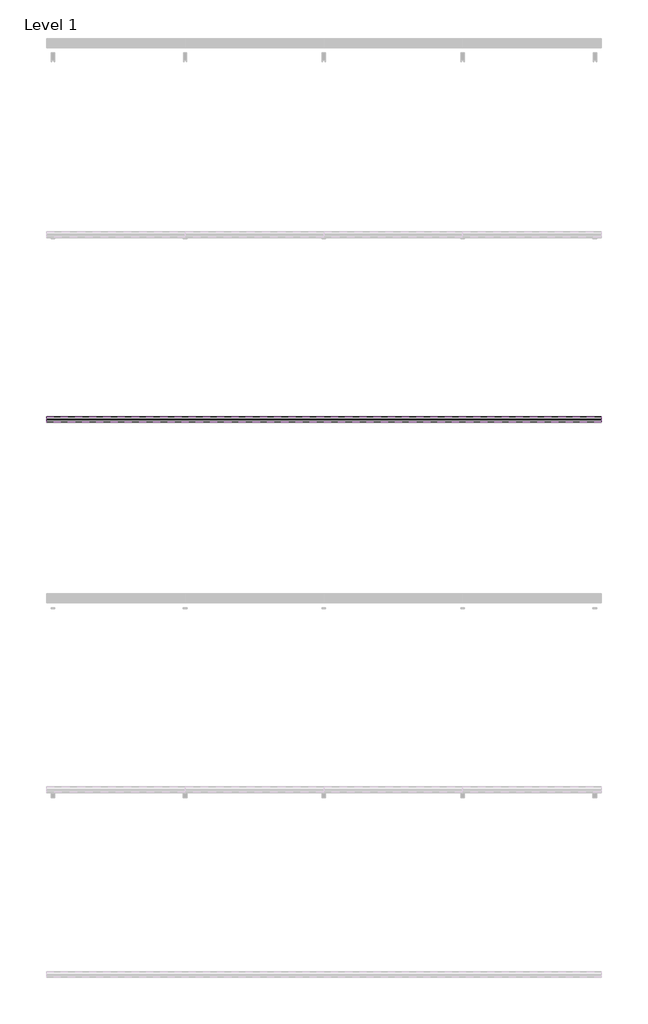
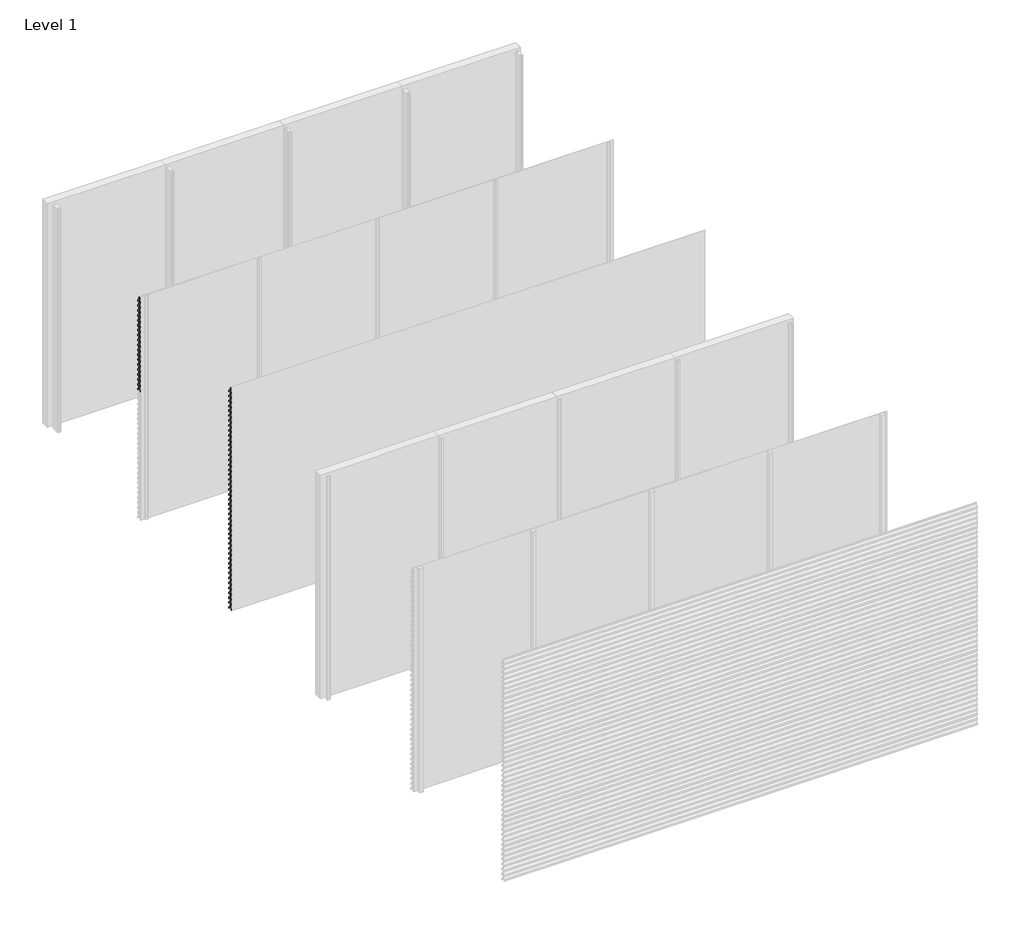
# One storey, part 19 of 35: 70 proxies.
"""IFC4 building model written with IfcOpenShell, lengths in millimetres."""

from ifc_helpers import new_model, si_unit, frame, origin, place, context, project, spatial, polyline, outline, extrude, element, save

model = new_model("IFC4")

# Units and contexts
model_context = context("Model", 3, world=origin())
ifc_project = project(units=[si_unit("LENGTHUNIT", "METRE", prefix="MILLI")], contexts=[model_context])

# Site, building, storey
site = spatial("IfcSite", under=ifc_project)
building = spatial("IfcBuilding", under=site)
storey = spatial("IfcBuildingStorey", under=building, Name="Level 1", Elevation=0.0)

# Proxies
placement = place(None, origin())
element("IfcBuildingElementProxy", 1, Name="Wall Sweeps", at=placement, inside=storey, context=model_context, shape_type="SweptSolid", body=[
    extrude(outline(polyline([(-23936.0, 2916.0), (-23936.0, 2896.0), (-23937.25, 2896.0), (-23937.25, 2915.4342979), (-23968.1138939, 2948.531772), (-23996.7, 2928.4392868), (-23996.7, 2909.6629874), (-23998.0, 2908.8506572), (-23998.0, 2929.1145472), (-23968.537525, 2949.823011), (-23968.537525, 2970.0), (-23967.1772624, 2970.0), (-23967.1772624, 2949.4335207), (-23936.0, 2916.0)])), frame((0.0, 0.0, 0.0), z_axis=(1.0, 0.0, 0.0), x_axis=(0.0, 1.0, 0.0)), (0.0, 0.0, 1.0), 1500.0),
])
element("IfcBuildingElementProxy", 2, Name="Wall Sweeps", at=placement, inside=storey, context=model_context, shape_type="SweptSolid", body=[
    extrude(outline(polyline([(-23936.0, 2850.0), (-23936.0, 2830.0), (-23937.25, 2830.0), (-23937.25, 2849.4342979), (-23968.1138939, 2882.531772), (-23996.7, 2862.4392868), (-23996.7, 2843.6629874), (-23998.0, 2842.8506572), (-23998.0, 2863.1145472), (-23968.537525, 2883.823011), (-23968.537525, 2904.0), (-23967.1772624, 2904.0), (-23967.1772624, 2883.4335207), (-23936.0, 2850.0)])), frame((0.0, 0.0, 0.0), z_axis=(1.0, 0.0, 0.0), x_axis=(0.0, 1.0, 0.0)), (0.0, 0.0, 1.0), 1500.0),
])
element("IfcBuildingElementProxy", 3, Name="Wall Sweeps", at=placement, inside=storey, context=model_context, shape_type="SweptSolid", body=[
    extrude(outline(polyline([(-23936.0, 2784.0), (-23936.0, 2764.0), (-23937.25, 2764.0), (-23937.25, 2783.4342979), (-23968.1138939, 2816.531772), (-23996.7, 2796.4392868), (-23996.7, 2777.6629874), (-23998.0, 2776.8506572), (-23998.0, 2797.1145472), (-23968.537525, 2817.823011), (-23968.537525, 2838.0), (-23967.1772624, 2838.0), (-23967.1772624, 2817.4335207), (-23936.0, 2784.0)])), frame((0.0, 0.0, 0.0), z_axis=(1.0, 0.0, 0.0), x_axis=(0.0, 1.0, 0.0)), (0.0, 0.0, 1.0), 1500.0),
])
element("IfcBuildingElementProxy", 4, Name="Wall Sweeps", at=placement, inside=storey, context=model_context, shape_type="SweptSolid", body=[
    extrude(outline(polyline([(-23936.0, 2718.0), (-23936.0, 2698.0), (-23937.25, 2698.0), (-23937.25, 2717.4342979), (-23968.1138939, 2750.531772), (-23996.7, 2730.4392868), (-23996.7, 2711.6629874), (-23998.0, 2710.8506572), (-23998.0, 2731.1145472), (-23968.537525, 2751.823011), (-23968.537525, 2772.0), (-23967.1772624, 2772.0), (-23967.1772624, 2751.4335207), (-23936.0, 2718.0)])), frame((0.0, 0.0, 0.0), z_axis=(1.0, 0.0, 0.0), x_axis=(0.0, 1.0, 0.0)), (0.0, 0.0, 1.0), 1500.0),
])
element("IfcBuildingElementProxy", 5, Name="Wall Sweeps", at=placement, inside=storey, context=model_context, shape_type="SweptSolid", body=[
    extrude(outline(polyline([(-23936.0, 2652.0), (-23936.0, 2632.0), (-23937.25, 2632.0), (-23937.25, 2651.4342979), (-23968.1138939, 2684.531772), (-23996.7, 2664.4392868), (-23996.7, 2645.6629874), (-23998.0, 2644.8506572), (-23998.0, 2665.1145472), (-23968.537525, 2685.823011), (-23968.537525, 2706.0), (-23967.1772624, 2706.0), (-23967.1772624, 2685.4335207), (-23936.0, 2652.0)])), frame((0.0, 0.0, 0.0), z_axis=(1.0, 0.0, 0.0), x_axis=(0.0, 1.0, 0.0)), (0.0, 0.0, 1.0), 1500.0),
])
element("IfcBuildingElementProxy", 6, Name="Wall Sweeps", at=placement, inside=storey, context=model_context, shape_type="SweptSolid", body=[
    extrude(outline(polyline([(-23936.0, 2586.0), (-23936.0, 2566.0), (-23937.25, 2566.0), (-23937.25, 2585.4342979), (-23968.1138939, 2618.531772), (-23996.7, 2598.4392868), (-23996.7, 2579.6629874), (-23998.0, 2578.8506572), (-23998.0, 2599.1145472), (-23968.537525, 2619.823011), (-23968.537525, 2640.0), (-23967.1772624, 2640.0), (-23967.1772624, 2619.4335207), (-23936.0, 2586.0)])), frame((0.0, 0.0, 0.0), z_axis=(1.0, 0.0, 0.0), x_axis=(0.0, 1.0, 0.0)), (0.0, 0.0, 1.0), 1500.0),
])
element("IfcBuildingElementProxy", 7, Name="Wall Sweeps", at=placement, inside=storey, context=model_context, shape_type="SweptSolid", body=[
    extrude(outline(polyline([(-23936.0, 2520.0), (-23936.0, 2500.0), (-23937.25, 2500.0), (-23937.25, 2519.4342979), (-23968.1138939, 2552.531772), (-23996.7, 2532.4392868), (-23996.7, 2513.6629874), (-23998.0, 2512.8506572), (-23998.0, 2533.1145472), (-23968.537525, 2553.823011), (-23968.537525, 2574.0), (-23967.1772624, 2574.0), (-23967.1772624, 2553.4335207), (-23936.0, 2520.0)])), frame((0.0, 0.0, 0.0), z_axis=(1.0, 0.0, 0.0), x_axis=(0.0, 1.0, 0.0)), (0.0, 0.0, 1.0), 1500.0),
])
element("IfcBuildingElementProxy", 8, Name="Wall Sweeps", at=placement, inside=storey, context=model_context, shape_type="SweptSolid", body=[
    extrude(outline(polyline([(-23936.0, 2454.0), (-23936.0, 2434.0), (-23937.25, 2434.0), (-23937.25, 2453.4342979), (-23968.1138939, 2486.531772), (-23996.7, 2466.4392868), (-23996.7, 2447.6629874), (-23998.0, 2446.8506572), (-23998.0, 2467.1145472), (-23968.537525, 2487.823011), (-23968.537525, 2508.0), (-23967.1772624, 2508.0), (-23967.1772624, 2487.4335207), (-23936.0, 2454.0)])), frame((0.0, 0.0, 0.0), z_axis=(1.0, 0.0, 0.0), x_axis=(0.0, 1.0, 0.0)), (0.0, 0.0, 1.0), 1500.0),
])
element("IfcBuildingElementProxy", 9, Name="Wall Sweeps", at=placement, inside=storey, context=model_context, shape_type="SweptSolid", body=[
    extrude(outline(polyline([(-23936.0, 2388.0), (-23936.0, 2368.0), (-23937.25, 2368.0), (-23937.25, 2387.4342979), (-23968.1138939, 2420.531772), (-23996.7, 2400.4392868), (-23996.7, 2381.6629874), (-23998.0, 2380.8506572), (-23998.0, 2401.1145472), (-23968.537525, 2421.823011), (-23968.537525, 2442.0), (-23967.1772624, 2442.0), (-23967.1772624, 2421.4335207), (-23936.0, 2388.0)])), frame((0.0, 0.0, 0.0), z_axis=(1.0, 0.0, 0.0), x_axis=(0.0, 1.0, 0.0)), (0.0, 0.0, 1.0), 1500.0),
])
element("IfcBuildingElementProxy", 10, Name="Wall Sweeps", at=placement, inside=storey, context=model_context, shape_type="SweptSolid", body=[
    extrude(outline(polyline([(-23936.0, 2322.0), (-23936.0, 2302.0), (-23937.25, 2302.0), (-23937.25, 2321.4342979), (-23968.1138939, 2354.531772), (-23996.7, 2334.4392868), (-23996.7, 2315.6629874), (-23998.0, 2314.8506572), (-23998.0, 2335.1145472), (-23968.537525, 2355.823011), (-23968.537525, 2376.0), (-23967.1772624, 2376.0), (-23967.1772624, 2355.4335207), (-23936.0, 2322.0)])), frame((0.0, 0.0, 0.0), z_axis=(1.0, 0.0, 0.0), x_axis=(0.0, 1.0, 0.0)), (0.0, 0.0, 1.0), 1500.0),
])
element("IfcBuildingElementProxy", 11, Name="Wall Sweeps", at=placement, inside=storey, context=model_context, shape_type="SweptSolid", body=[
    extrude(outline(polyline([(-23936.0, 2256.0), (-23936.0, 2236.0), (-23937.25, 2236.0), (-23937.25, 2255.4342979), (-23968.1138939, 2288.531772), (-23996.7, 2268.4392868), (-23996.7, 2249.6629874), (-23998.0, 2248.8506572), (-23998.0, 2269.1145472), (-23968.537525, 2289.823011), (-23968.537525, 2310.0), (-23967.1772624, 2310.0), (-23967.1772624, 2289.4335207), (-23936.0, 2256.0)])), frame((0.0, 0.0, 0.0), z_axis=(1.0, 0.0, 0.0), x_axis=(0.0, 1.0, 0.0)), (0.0, 0.0, 1.0), 1500.0),
])
element("IfcBuildingElementProxy", 12, Name="Wall Sweeps", at=placement, inside=storey, context=model_context, shape_type="SweptSolid", body=[
    extrude(outline(polyline([(-23936.0, 2190.0), (-23936.0, 2170.0), (-23937.25, 2170.0), (-23937.25, 2189.4342979), (-23968.1138939, 2222.531772), (-23996.7, 2202.4392868), (-23996.7, 2183.6629874), (-23998.0, 2182.8506572), (-23998.0, 2203.1145472), (-23968.537525, 2223.823011), (-23968.537525, 2244.0), (-23967.1772624, 2244.0), (-23967.1772624, 2223.4335207), (-23936.0, 2190.0)])), frame((0.0, 0.0, 0.0), z_axis=(1.0, 0.0, 0.0), x_axis=(0.0, 1.0, 0.0)), (0.0, 0.0, 1.0), 1500.0),
])
element("IfcBuildingElementProxy", 13, Name="Wall Sweeps", at=placement, inside=storey, context=model_context, shape_type="SweptSolid", body=[
    extrude(outline(polyline([(-23936.0, 2124.0), (-23936.0, 2104.0), (-23937.25, 2104.0), (-23937.25, 2123.4342979), (-23968.1138939, 2156.531772), (-23996.7, 2136.4392868), (-23996.7, 2117.6629874), (-23998.0, 2116.8506572), (-23998.0, 2137.1145472), (-23968.537525, 2157.823011), (-23968.537525, 2178.0), (-23967.1772624, 2178.0), (-23967.1772624, 2157.4335207), (-23936.0, 2124.0)])), frame((0.0, 0.0, 0.0), z_axis=(1.0, 0.0, 0.0), x_axis=(0.0, 1.0, 0.0)), (0.0, 0.0, 1.0), 1500.0),
])
element("IfcBuildingElementProxy", 14, Name="Wall Sweeps", at=placement, inside=storey, context=model_context, shape_type="SweptSolid", body=[
    extrude(outline(polyline([(-23936.0, 2058.0), (-23936.0, 2038.0), (-23937.25, 2038.0), (-23937.25, 2057.4342979), (-23968.1138939, 2090.531772), (-23996.7, 2070.4392868), (-23996.7, 2051.6629874), (-23998.0, 2050.8506572), (-23998.0, 2071.1145472), (-23968.537525, 2091.823011), (-23968.537525, 2112.0), (-23967.1772624, 2112.0), (-23967.1772624, 2091.4335207), (-23936.0, 2058.0)])), frame((0.0, 0.0, 0.0), z_axis=(1.0, 0.0, 0.0), x_axis=(0.0, 1.0, 0.0)), (0.0, 0.0, 1.0), 1500.0),
])
element("IfcBuildingElementProxy", 15, Name="Wall Sweeps", at=placement, inside=storey, context=model_context, shape_type="SweptSolid", body=[
    extrude(outline(polyline([(-23936.0, 1992.0), (-23936.0, 1972.0), (-23937.25, 1972.0), (-23937.25, 1991.4342979), (-23968.1138939, 2024.531772), (-23996.7, 2004.4392868), (-23996.7, 1985.6629874), (-23998.0, 1984.8506572), (-23998.0, 2005.1145472), (-23968.537525, 2025.823011), (-23968.537525, 2046.0), (-23967.1772624, 2046.0), (-23967.1772624, 2025.4335207), (-23936.0, 1992.0)])), frame((0.0, 0.0, 0.0), z_axis=(1.0, 0.0, 0.0), x_axis=(0.0, 1.0, 0.0)), (0.0, 0.0, 1.0), 1500.0),
])
element("IfcBuildingElementProxy", 16, Name="Wall Sweeps", at=placement, inside=storey, context=model_context, shape_type="SweptSolid", body=[
    extrude(outline(polyline([(-23936.0, 1926.0), (-23936.0, 1906.0), (-23937.25, 1906.0), (-23937.25, 1925.4342979), (-23968.1138939, 1958.531772), (-23996.7, 1938.4392868), (-23996.7, 1919.6629874), (-23998.0, 1918.8506572), (-23998.0, 1939.1145472), (-23968.537525, 1959.823011), (-23968.537525, 1980.0), (-23967.1772624, 1980.0), (-23967.1772624, 1959.4335207), (-23936.0, 1926.0)])), frame((0.0, 0.0, 0.0), z_axis=(1.0, 0.0, 0.0), x_axis=(0.0, 1.0, 0.0)), (0.0, 0.0, 1.0), 1500.0),
])
element("IfcBuildingElementProxy", 17, Name="Wall Sweeps", at=placement, inside=storey, context=model_context, shape_type="SweptSolid", body=[
    extrude(outline(polyline([(-23936.0, 1860.0), (-23936.0, 1840.0), (-23937.25, 1840.0), (-23937.25, 1859.4342979), (-23968.1138939, 1892.531772), (-23996.7, 1872.4392868), (-23996.7, 1853.6629874), (-23998.0, 1852.8506572), (-23998.0, 1873.1145472), (-23968.537525, 1893.823011), (-23968.537525, 1914.0), (-23967.1772624, 1914.0), (-23967.1772624, 1893.4335207), (-23936.0, 1860.0)])), frame((0.0, 0.0, 0.0), z_axis=(1.0, 0.0, 0.0), x_axis=(0.0, 1.0, 0.0)), (0.0, 0.0, 1.0), 1500.0),
])
element("IfcBuildingElementProxy", 18, Name="Wall Sweeps", at=placement, inside=storey, context=model_context, shape_type="SweptSolid", body=[
    extrude(outline(polyline([(-23936.0, 1794.0), (-23936.0, 1774.0), (-23937.25, 1774.0), (-23937.25, 1793.4342979), (-23968.1138939, 1826.531772), (-23996.7, 1806.4392868), (-23996.7, 1787.6629874), (-23998.0, 1786.8506572), (-23998.0, 1807.1145472), (-23968.537525, 1827.823011), (-23968.537525, 1848.0), (-23967.1772624, 1848.0), (-23967.1772624, 1827.4335207), (-23936.0, 1794.0)])), frame((0.0, 0.0, 0.0), z_axis=(1.0, 0.0, 0.0), x_axis=(0.0, 1.0, 0.0)), (0.0, 0.0, 1.0), 1500.0),
])
element("IfcBuildingElementProxy", 19, Name="Wall Sweeps", at=placement, inside=storey, context=model_context, shape_type="SweptSolid", body=[
    extrude(outline(polyline([(-23936.0, 1728.0), (-23936.0, 1708.0), (-23937.25, 1708.0), (-23937.25, 1727.4342979), (-23968.1138939, 1760.531772), (-23996.7, 1740.4392868), (-23996.7, 1721.6629874), (-23998.0, 1720.8506572), (-23998.0, 1741.1145472), (-23968.537525, 1761.823011), (-23968.537525, 1782.0), (-23967.1772624, 1782.0), (-23967.1772624, 1761.4335207), (-23936.0, 1728.0)])), frame((0.0, 0.0, 0.0), z_axis=(1.0, 0.0, 0.0), x_axis=(0.0, 1.0, 0.0)), (0.0, 0.0, 1.0), 1500.0),
])
element("IfcBuildingElementProxy", 20, Name="Wall Sweeps", at=placement, inside=storey, context=model_context, shape_type="SweptSolid", body=[
    extrude(outline(polyline([(-25936.0, 2916.0), (-25936.0, 2896.0), (-25937.25, 2896.0), (-25937.25, 2915.4342979), (-25968.1138939, 2948.531772), (-25996.7, 2928.4392868), (-25996.7, 2909.6629874), (-25998.0, 2908.8506572), (-25998.0, 2929.1145472), (-25968.537525, 2949.823011), (-25968.537525, 2970.0), (-25967.1772624, 2970.0), (-25967.1772624, 2949.4335207), (-25936.0, 2916.0)])), frame((0.0, 0.0, 0.0), z_axis=(1.0, 0.0, 0.0), x_axis=(0.0, 1.0, 0.0)), (0.0, 0.0, 1.0), 6000.0),
])
element("IfcBuildingElementProxy", 21, Name="Wall Sweeps", at=placement, inside=storey, context=model_context, shape_type="SweptSolid", body=[
    extrude(outline(polyline([(-25936.0, 2850.0), (-25936.0, 2830.0), (-25937.25, 2830.0), (-25937.25, 2849.4342979), (-25968.1138939, 2882.531772), (-25996.7, 2862.4392868), (-25996.7, 2843.6629874), (-25998.0, 2842.8506572), (-25998.0, 2863.1145472), (-25968.537525, 2883.823011), (-25968.537525, 2904.0), (-25967.1772624, 2904.0), (-25967.1772624, 2883.4335207), (-25936.0, 2850.0)])), frame((0.0, 0.0, 0.0), z_axis=(1.0, 0.0, 0.0), x_axis=(0.0, 1.0, 0.0)), (0.0, 0.0, 1.0), 6000.0),
])
element("IfcBuildingElementProxy", 22, Name="Wall Sweeps", at=placement, inside=storey, context=model_context, shape_type="SweptSolid", body=[
    extrude(outline(polyline([(-25936.0, 2784.0), (-25936.0, 2764.0), (-25937.25, 2764.0), (-25937.25, 2783.4342979), (-25968.1138939, 2816.531772), (-25996.7, 2796.4392868), (-25996.7, 2777.6629874), (-25998.0, 2776.8506572), (-25998.0, 2797.1145472), (-25968.537525, 2817.823011), (-25968.537525, 2838.0), (-25967.1772624, 2838.0), (-25967.1772624, 2817.4335207), (-25936.0, 2784.0)])), frame((0.0, 0.0, 0.0), z_axis=(1.0, 0.0, 0.0), x_axis=(0.0, 1.0, 0.0)), (0.0, 0.0, 1.0), 6000.0),
])
element("IfcBuildingElementProxy", 23, Name="Wall Sweeps", at=placement, inside=storey, context=model_context, shape_type="SweptSolid", body=[
    extrude(outline(polyline([(-25936.0, 2718.0), (-25936.0, 2698.0), (-25937.25, 2698.0), (-25937.25, 2717.4342979), (-25968.1138939, 2750.531772), (-25996.7, 2730.4392868), (-25996.7, 2711.6629874), (-25998.0, 2710.8506572), (-25998.0, 2731.1145472), (-25968.537525, 2751.823011), (-25968.537525, 2772.0), (-25967.1772624, 2772.0), (-25967.1772624, 2751.4335207), (-25936.0, 2718.0)])), frame((0.0, 0.0, 0.0), z_axis=(1.0, 0.0, 0.0), x_axis=(0.0, 1.0, 0.0)), (0.0, 0.0, 1.0), 6000.0),
])
element("IfcBuildingElementProxy", 24, Name="Wall Sweeps", at=placement, inside=storey, context=model_context, shape_type="SweptSolid", body=[
    extrude(outline(polyline([(-25936.0, 2652.0), (-25936.0, 2632.0), (-25937.25, 2632.0), (-25937.25, 2651.4342979), (-25968.1138939, 2684.531772), (-25996.7, 2664.4392868), (-25996.7, 2645.6629874), (-25998.0, 2644.8506572), (-25998.0, 2665.1145472), (-25968.537525, 2685.823011), (-25968.537525, 2706.0), (-25967.1772624, 2706.0), (-25967.1772624, 2685.4335207), (-25936.0, 2652.0)])), frame((0.0, 0.0, 0.0), z_axis=(1.0, 0.0, 0.0), x_axis=(0.0, 1.0, 0.0)), (0.0, 0.0, 1.0), 6000.0),
])
element("IfcBuildingElementProxy", 25, Name="Wall Sweeps", at=placement, inside=storey, context=model_context, shape_type="SweptSolid", body=[
    extrude(outline(polyline([(-25936.0, 2586.0), (-25936.0, 2566.0), (-25937.25, 2566.0), (-25937.25, 2585.4342979), (-25968.1138939, 2618.531772), (-25996.7, 2598.4392868), (-25996.7, 2579.6629874), (-25998.0, 2578.8506572), (-25998.0, 2599.1145472), (-25968.537525, 2619.823011), (-25968.537525, 2640.0), (-25967.1772624, 2640.0), (-25967.1772624, 2619.4335207), (-25936.0, 2586.0)])), frame((0.0, 0.0, 0.0), z_axis=(1.0, 0.0, 0.0), x_axis=(0.0, 1.0, 0.0)), (0.0, 0.0, 1.0), 6000.0),
])
element("IfcBuildingElementProxy", 26, Name="Wall Sweeps", at=placement, inside=storey, context=model_context, shape_type="SweptSolid", body=[
    extrude(outline(polyline([(-25936.0, 2520.0), (-25936.0, 2500.0), (-25937.25, 2500.0), (-25937.25, 2519.4342979), (-25968.1138939, 2552.531772), (-25996.7, 2532.4392868), (-25996.7, 2513.6629874), (-25998.0, 2512.8506572), (-25998.0, 2533.1145472), (-25968.537525, 2553.823011), (-25968.537525, 2574.0), (-25967.1772624, 2574.0), (-25967.1772624, 2553.4335207), (-25936.0, 2520.0)])), frame((0.0, 0.0, 0.0), z_axis=(1.0, 0.0, 0.0), x_axis=(0.0, 1.0, 0.0)), (0.0, 0.0, 1.0), 6000.0),
])
element("IfcBuildingElementProxy", 27, Name="Wall Sweeps", at=placement, inside=storey, context=model_context, shape_type="SweptSolid", body=[
    extrude(outline(polyline([(-25936.0, 2454.0), (-25936.0, 2434.0), (-25937.25, 2434.0), (-25937.25, 2453.4342979), (-25968.1138939, 2486.531772), (-25996.7, 2466.4392868), (-25996.7, 2447.6629874), (-25998.0, 2446.8506572), (-25998.0, 2467.1145472), (-25968.537525, 2487.823011), (-25968.537525, 2508.0), (-25967.1772624, 2508.0), (-25967.1772624, 2487.4335207), (-25936.0, 2454.0)])), frame((0.0, 0.0, 0.0), z_axis=(1.0, 0.0, 0.0), x_axis=(0.0, 1.0, 0.0)), (0.0, 0.0, 1.0), 6000.0),
])
element("IfcBuildingElementProxy", 28, Name="Wall Sweeps", at=placement, inside=storey, context=model_context, shape_type="SweptSolid", body=[
    extrude(outline(polyline([(-25936.0, 2388.0), (-25936.0, 2368.0), (-25937.25, 2368.0), (-25937.25, 2387.4342979), (-25968.1138939, 2420.531772), (-25996.7, 2400.4392868), (-25996.7, 2381.6629874), (-25998.0, 2380.8506572), (-25998.0, 2401.1145472), (-25968.537525, 2421.823011), (-25968.537525, 2442.0), (-25967.1772624, 2442.0), (-25967.1772624, 2421.4335207), (-25936.0, 2388.0)])), frame((0.0, 0.0, 0.0), z_axis=(1.0, 0.0, 0.0), x_axis=(0.0, 1.0, 0.0)), (0.0, 0.0, 1.0), 6000.0),
])
element("IfcBuildingElementProxy", 29, Name="Wall Sweeps", at=placement, inside=storey, context=model_context, shape_type="SweptSolid", body=[
    extrude(outline(polyline([(-25936.0, 2322.0), (-25936.0, 2302.0), (-25937.25, 2302.0), (-25937.25, 2321.4342979), (-25968.1138939, 2354.531772), (-25996.7, 2334.4392868), (-25996.7, 2315.6629874), (-25998.0, 2314.8506572), (-25998.0, 2335.1145472), (-25968.537525, 2355.823011), (-25968.537525, 2376.0), (-25967.1772624, 2376.0), (-25967.1772624, 2355.4335207), (-25936.0, 2322.0)])), frame((0.0, 0.0, 0.0), z_axis=(1.0, 0.0, 0.0), x_axis=(0.0, 1.0, 0.0)), (0.0, 0.0, 1.0), 6000.0),
])
element("IfcBuildingElementProxy", 30, Name="Wall Sweeps", at=placement, inside=storey, context=model_context, shape_type="SweptSolid", body=[
    extrude(outline(polyline([(-25936.0, 2256.0), (-25936.0, 2236.0), (-25937.25, 2236.0), (-25937.25, 2255.4342979), (-25968.1138939, 2288.531772), (-25996.7, 2268.4392868), (-25996.7, 2249.6629874), (-25998.0, 2248.8506572), (-25998.0, 2269.1145472), (-25968.537525, 2289.823011), (-25968.537525, 2310.0), (-25967.1772624, 2310.0), (-25967.1772624, 2289.4335207), (-25936.0, 2256.0)])), frame((0.0, 0.0, 0.0), z_axis=(1.0, 0.0, 0.0), x_axis=(0.0, 1.0, 0.0)), (0.0, 0.0, 1.0), 6000.0),
])
element("IfcBuildingElementProxy", 31, Name="Wall Sweeps", at=placement, inside=storey, context=model_context, shape_type="SweptSolid", body=[
    extrude(outline(polyline([(-25936.0, 2190.0), (-25936.0, 2170.0), (-25937.25, 2170.0), (-25937.25, 2189.4342979), (-25968.1138939, 2222.531772), (-25996.7, 2202.4392868), (-25996.7, 2183.6629874), (-25998.0, 2182.8506572), (-25998.0, 2203.1145472), (-25968.537525, 2223.823011), (-25968.537525, 2244.0), (-25967.1772624, 2244.0), (-25967.1772624, 2223.4335207), (-25936.0, 2190.0)])), frame((0.0, 0.0, 0.0), z_axis=(1.0, 0.0, 0.0), x_axis=(0.0, 1.0, 0.0)), (0.0, 0.0, 1.0), 6000.0),
])
element("IfcBuildingElementProxy", 32, Name="Wall Sweeps", at=placement, inside=storey, context=model_context, shape_type="SweptSolid", body=[
    extrude(outline(polyline([(-25936.0, 2124.0), (-25936.0, 2104.0), (-25937.25, 2104.0), (-25937.25, 2123.4342979), (-25968.1138939, 2156.531772), (-25996.7, 2136.4392868), (-25996.7, 2117.6629874), (-25998.0, 2116.8506572), (-25998.0, 2137.1145472), (-25968.537525, 2157.823011), (-25968.537525, 2178.0), (-25967.1772624, 2178.0), (-25967.1772624, 2157.4335207), (-25936.0, 2124.0)])), frame((0.0, 0.0, 0.0), z_axis=(1.0, 0.0, 0.0), x_axis=(0.0, 1.0, 0.0)), (0.0, 0.0, 1.0), 6000.0),
])
element("IfcBuildingElementProxy", 33, Name="Wall Sweeps", at=placement, inside=storey, context=model_context, shape_type="SweptSolid", body=[
    extrude(outline(polyline([(-25936.0, 2058.0), (-25936.0, 2038.0), (-25937.25, 2038.0), (-25937.25, 2057.4342979), (-25968.1138939, 2090.531772), (-25996.7, 2070.4392868), (-25996.7, 2051.6629874), (-25998.0, 2050.8506572), (-25998.0, 2071.1145472), (-25968.537525, 2091.823011), (-25968.537525, 2112.0), (-25967.1772624, 2112.0), (-25967.1772624, 2091.4335207), (-25936.0, 2058.0)])), frame((0.0, 0.0, 0.0), z_axis=(1.0, 0.0, 0.0), x_axis=(0.0, 1.0, 0.0)), (0.0, 0.0, 1.0), 6000.0),
])
element("IfcBuildingElementProxy", 34, Name="Wall Sweeps", at=placement, inside=storey, context=model_context, shape_type="SweptSolid", body=[
    extrude(outline(polyline([(-25936.0, 1992.0), (-25936.0, 1972.0), (-25937.25, 1972.0), (-25937.25, 1991.4342979), (-25968.1138939, 2024.531772), (-25996.7, 2004.4392868), (-25996.7, 1985.6629874), (-25998.0, 1984.8506572), (-25998.0, 2005.1145472), (-25968.537525, 2025.823011), (-25968.537525, 2046.0), (-25967.1772624, 2046.0), (-25967.1772624, 2025.4335207), (-25936.0, 1992.0)])), frame((0.0, 0.0, 0.0), z_axis=(1.0, 0.0, 0.0), x_axis=(0.0, 1.0, 0.0)), (0.0, 0.0, 1.0), 6000.0),
])
element("IfcBuildingElementProxy", 35, Name="Wall Sweeps", at=placement, inside=storey, context=model_context, shape_type="SweptSolid", body=[
    extrude(outline(polyline([(-25936.0, 1926.0), (-25936.0, 1906.0), (-25937.25, 1906.0), (-25937.25, 1925.4342979), (-25968.1138939, 1958.531772), (-25996.7, 1938.4392868), (-25996.7, 1919.6629874), (-25998.0, 1918.8506572), (-25998.0, 1939.1145472), (-25968.537525, 1959.823011), (-25968.537525, 1980.0), (-25967.1772624, 1980.0), (-25967.1772624, 1959.4335207), (-25936.0, 1926.0)])), frame((0.0, 0.0, 0.0), z_axis=(1.0, 0.0, 0.0), x_axis=(0.0, 1.0, 0.0)), (0.0, 0.0, 1.0), 6000.0),
])
element("IfcBuildingElementProxy", 36, Name="Wall Sweeps", at=placement, inside=storey, context=model_context, shape_type="SweptSolid", body=[
    extrude(outline(polyline([(-25936.0, 1860.0), (-25936.0, 1840.0), (-25937.25, 1840.0), (-25937.25, 1859.4342979), (-25968.1138939, 1892.531772), (-25996.7, 1872.4392868), (-25996.7, 1853.6629874), (-25998.0, 1852.8506572), (-25998.0, 1873.1145472), (-25968.537525, 1893.823011), (-25968.537525, 1914.0), (-25967.1772624, 1914.0), (-25967.1772624, 1893.4335207), (-25936.0, 1860.0)])), frame((0.0, 0.0, 0.0), z_axis=(1.0, 0.0, 0.0), x_axis=(0.0, 1.0, 0.0)), (0.0, 0.0, 1.0), 6000.0),
])
element("IfcBuildingElementProxy", 37, Name="Wall Sweeps", at=placement, inside=storey, context=model_context, shape_type="SweptSolid", body=[
    extrude(outline(polyline([(-25936.0, 1794.0), (-25936.0, 1774.0), (-25937.25, 1774.0), (-25937.25, 1793.4342979), (-25968.1138939, 1826.531772), (-25996.7, 1806.4392868), (-25996.7, 1787.6629874), (-25998.0, 1786.8506572), (-25998.0, 1807.1145472), (-25968.537525, 1827.823011), (-25968.537525, 1848.0), (-25967.1772624, 1848.0), (-25967.1772624, 1827.4335207), (-25936.0, 1794.0)])), frame((0.0, 0.0, 0.0), z_axis=(1.0, 0.0, 0.0), x_axis=(0.0, 1.0, 0.0)), (0.0, 0.0, 1.0), 6000.0),
])
element("IfcBuildingElementProxy", 38, Name="Wall Sweeps", at=placement, inside=storey, context=model_context, shape_type="SweptSolid", body=[
    extrude(outline(polyline([(-25936.0, 1728.0), (-25936.0, 1708.0), (-25937.25, 1708.0), (-25937.25, 1727.4342979), (-25968.1138939, 1760.531772), (-25996.7, 1740.4392868), (-25996.7, 1721.6629874), (-25998.0, 1720.8506572), (-25998.0, 1741.1145472), (-25968.537525, 1761.823011), (-25968.537525, 1782.0), (-25967.1772624, 1782.0), (-25967.1772624, 1761.4335207), (-25936.0, 1728.0)])), frame((0.0, 0.0, 0.0), z_axis=(1.0, 0.0, 0.0), x_axis=(0.0, 1.0, 0.0)), (0.0, 0.0, 1.0), 6000.0),
])
element("IfcBuildingElementProxy", 39, Name="Wall Sweeps", at=placement, inside=storey, context=model_context, shape_type="SweptSolid", body=[
    extrude(outline(polyline([(-25936.0, 1662.0), (-25936.0, 1642.0), (-25937.25, 1642.0), (-25937.25, 1661.4342979), (-25968.1138939, 1694.531772), (-25996.7, 1674.4392868), (-25996.7, 1655.6629874), (-25998.0, 1654.8506572), (-25998.0, 1675.1145472), (-25968.537525, 1695.823011), (-25968.537525, 1716.0), (-25967.1772624, 1716.0), (-25967.1772624, 1695.4335207), (-25936.0, 1662.0)])), frame((0.0, 0.0, 0.0), z_axis=(1.0, 0.0, 0.0), x_axis=(0.0, 1.0, 0.0)), (0.0, 0.0, 1.0), 6000.0),
])
element("IfcBuildingElementProxy", 40, Name="Wall Sweeps", at=placement, inside=storey, context=model_context, shape_type="SweptSolid", body=[
    extrude(outline(polyline([(-25936.0, 1596.0), (-25936.0, 1576.0), (-25937.25, 1576.0), (-25937.25, 1595.4342979), (-25968.1138939, 1628.531772), (-25996.7, 1608.4392868), (-25996.7, 1589.6629874), (-25998.0, 1588.8506572), (-25998.0, 1609.1145472), (-25968.537525, 1629.823011), (-25968.537525, 1650.0), (-25967.1772624, 1650.0), (-25967.1772624, 1629.4335207), (-25936.0, 1596.0)])), frame((0.0, 0.0, 0.0), z_axis=(1.0, 0.0, 0.0), x_axis=(0.0, 1.0, 0.0)), (0.0, 0.0, 1.0), 6000.0),
])
element("IfcBuildingElementProxy", 41, Name="Wall Sweeps", at=placement, inside=storey, context=model_context, shape_type="SweptSolid", body=[
    extrude(outline(polyline([(-25936.0, 1530.0), (-25936.0, 1510.0), (-25937.25, 1510.0), (-25937.25, 1529.4342979), (-25968.1138939, 1562.531772), (-25996.7, 1542.4392868), (-25996.7, 1523.6629874), (-25998.0, 1522.8506572), (-25998.0, 1543.1145472), (-25968.537525, 1563.823011), (-25968.537525, 1584.0), (-25967.1772624, 1584.0), (-25967.1772624, 1563.4335207), (-25936.0, 1530.0)])), frame((0.0, 0.0, 0.0), z_axis=(1.0, 0.0, 0.0), x_axis=(0.0, 1.0, 0.0)), (0.0, 0.0, 1.0), 6000.0),
])
element("IfcBuildingElementProxy", 42, Name="Wall Sweeps", at=placement, inside=storey, context=model_context, shape_type="SweptSolid", body=[
    extrude(outline(polyline([(-25936.0, 1464.0), (-25936.0, 1444.0), (-25937.25, 1444.0), (-25937.25, 1463.4342979), (-25968.1138939, 1496.531772), (-25996.7, 1476.4392868), (-25996.7, 1457.6629874), (-25998.0, 1456.8506572), (-25998.0, 1477.1145472), (-25968.537525, 1497.823011), (-25968.537525, 1518.0), (-25967.1772624, 1518.0), (-25967.1772624, 1497.4335207), (-25936.0, 1464.0)])), frame((0.0, 0.0, 0.0), z_axis=(1.0, 0.0, 0.0), x_axis=(0.0, 1.0, 0.0)), (0.0, 0.0, 1.0), 6000.0),
])
element("IfcBuildingElementProxy", 43, Name="Wall Sweeps", at=placement, inside=storey, context=model_context, shape_type="SweptSolid", body=[
    extrude(outline(polyline([(-25936.0, 1398.0), (-25936.0, 1378.0), (-25937.25, 1378.0), (-25937.25, 1397.4342979), (-25968.1138939, 1430.531772), (-25996.7, 1410.4392868), (-25996.7, 1391.6629874), (-25998.0, 1390.8506572), (-25998.0, 1411.1145472), (-25968.537525, 1431.823011), (-25968.537525, 1452.0), (-25967.1772624, 1452.0), (-25967.1772624, 1431.4335207), (-25936.0, 1398.0)])), frame((0.0, 0.0, 0.0), z_axis=(1.0, 0.0, 0.0), x_axis=(0.0, 1.0, 0.0)), (0.0, 0.0, 1.0), 6000.0),
])
element("IfcBuildingElementProxy", 44, Name="Wall Sweeps", at=placement, inside=storey, context=model_context, shape_type="SweptSolid", body=[
    extrude(outline(polyline([(-25936.0, 1332.0), (-25936.0, 1312.0), (-25937.25, 1312.0), (-25937.25, 1331.4342979), (-25968.1138939, 1364.531772), (-25996.7, 1344.4392868), (-25996.7, 1325.6629874), (-25998.0, 1324.8506572), (-25998.0, 1345.1145472), (-25968.537525, 1365.823011), (-25968.537525, 1386.0), (-25967.1772624, 1386.0), (-25967.1772624, 1365.4335207), (-25936.0, 1332.0)])), frame((0.0, 0.0, 0.0), z_axis=(1.0, 0.0, 0.0), x_axis=(0.0, 1.0, 0.0)), (0.0, 0.0, 1.0), 6000.0),
])
element("IfcBuildingElementProxy", 45, Name="Wall Sweeps", at=placement, inside=storey, context=model_context, shape_type="SweptSolid", body=[
    extrude(outline(polyline([(-25936.0, 1266.0), (-25936.0, 1246.0), (-25937.25, 1246.0), (-25937.25, 1265.4342979), (-25968.1138939, 1298.531772), (-25996.7, 1278.4392868), (-25996.7, 1259.6629874), (-25998.0, 1258.8506572), (-25998.0, 1279.1145472), (-25968.537525, 1299.823011), (-25968.537525, 1320.0), (-25967.1772624, 1320.0), (-25967.1772624, 1299.4335207), (-25936.0, 1266.0)])), frame((0.0, 0.0, 0.0), z_axis=(1.0, 0.0, 0.0), x_axis=(0.0, 1.0, 0.0)), (0.0, 0.0, 1.0), 6000.0),
])
element("IfcBuildingElementProxy", 46, Name="Wall Sweeps", at=placement, inside=storey, context=model_context, shape_type="SweptSolid", body=[
    extrude(outline(polyline([(-25936.0, 1200.0), (-25936.0, 1180.0), (-25937.25, 1180.0), (-25937.25, 1199.4342979), (-25968.1138939, 1232.531772), (-25996.7, 1212.4392868), (-25996.7, 1193.6629874), (-25998.0, 1192.8506572), (-25998.0, 1213.1145472), (-25968.537525, 1233.823011), (-25968.537525, 1254.0), (-25967.1772624, 1254.0), (-25967.1772624, 1233.4335207), (-25936.0, 1200.0)])), frame((0.0, 0.0, 0.0), z_axis=(1.0, 0.0, 0.0), x_axis=(0.0, 1.0, 0.0)), (0.0, 0.0, 1.0), 6000.0),
])
element("IfcBuildingElementProxy", 47, Name="Wall Sweeps", at=placement, inside=storey, context=model_context, shape_type="SweptSolid", body=[
    extrude(outline(polyline([(-25936.0, 1134.0), (-25936.0, 1114.0), (-25937.25, 1114.0), (-25937.25, 1133.4342979), (-25968.1138939, 1166.531772), (-25996.7, 1146.4392868), (-25996.7, 1127.6629874), (-25998.0, 1126.8506572), (-25998.0, 1147.1145472), (-25968.537525, 1167.823011), (-25968.537525, 1188.0), (-25967.1772624, 1188.0), (-25967.1772624, 1167.4335207), (-25936.0, 1134.0)])), frame((0.0, 0.0, 0.0), z_axis=(1.0, 0.0, 0.0), x_axis=(0.0, 1.0, 0.0)), (0.0, 0.0, 1.0), 6000.0),
])
element("IfcBuildingElementProxy", 48, Name="Wall Sweeps", at=placement, inside=storey, context=model_context, shape_type="SweptSolid", body=[
    extrude(outline(polyline([(-25936.0, 1068.0), (-25936.0, 1048.0), (-25937.25, 1048.0), (-25937.25, 1067.4342979), (-25968.1138939, 1100.531772), (-25996.7, 1080.4392868), (-25996.7, 1061.6629874), (-25998.0, 1060.8506572), (-25998.0, 1081.1145472), (-25968.537525, 1101.823011), (-25968.537525, 1122.0), (-25967.1772624, 1122.0), (-25967.1772624, 1101.4335207), (-25936.0, 1068.0)])), frame((0.0, 0.0, 0.0), z_axis=(1.0, 0.0, 0.0), x_axis=(0.0, 1.0, 0.0)), (0.0, 0.0, 1.0), 6000.0),
])
element("IfcBuildingElementProxy", 49, Name="Wall Sweeps", at=placement, inside=storey, context=model_context, shape_type="SweptSolid", body=[
    extrude(outline(polyline([(-25936.0, 1002.0), (-25936.0, 982.0), (-25937.25, 982.0), (-25937.25, 1001.4342979), (-25968.1138939, 1034.531772), (-25996.7, 1014.4392868), (-25996.7, 995.6629874), (-25998.0, 994.8506572), (-25998.0, 1015.1145472), (-25968.537525, 1035.823011), (-25968.537525, 1056.0), (-25967.1772624, 1056.0), (-25967.1772624, 1035.4335207), (-25936.0, 1002.0)])), frame((0.0, 0.0, 0.0), z_axis=(1.0, 0.0, 0.0), x_axis=(0.0, 1.0, 0.0)), (0.0, 0.0, 1.0), 6000.0),
])
element("IfcBuildingElementProxy", 50, Name="Wall Sweeps", at=placement, inside=storey, context=model_context, shape_type="SweptSolid", body=[
    extrude(outline(polyline([(-25936.0, 936.0), (-25936.0, 916.0), (-25937.25, 916.0), (-25937.25, 935.4342979), (-25968.1138939, 968.531772), (-25996.7, 948.4392868), (-25996.7, 929.6629874), (-25998.0, 928.8506572), (-25998.0, 949.1145472), (-25968.537525, 969.823011), (-25968.537525, 990.0), (-25967.1772624, 990.0), (-25967.1772624, 969.4335207), (-25936.0, 936.0)])), frame((0.0, 0.0, 0.0), z_axis=(1.0, 0.0, 0.0), x_axis=(0.0, 1.0, 0.0)), (0.0, 0.0, 1.0), 6000.0),
])
element("IfcBuildingElementProxy", 51, Name="Wall Sweeps", at=placement, inside=storey, context=model_context, shape_type="SweptSolid", body=[
    extrude(outline(polyline([(-25936.0, 870.0), (-25936.0, 850.0), (-25937.25, 850.0), (-25937.25, 869.4342979), (-25968.1138939, 902.531772), (-25996.7, 882.4392868), (-25996.7, 863.6629874), (-25998.0, 862.8506572), (-25998.0, 883.1145472), (-25968.537525, 903.823011), (-25968.537525, 924.0), (-25967.1772624, 924.0), (-25967.1772624, 903.4335207), (-25936.0, 870.0)])), frame((0.0, 0.0, 0.0), z_axis=(1.0, 0.0, 0.0), x_axis=(0.0, 1.0, 0.0)), (0.0, 0.0, 1.0), 6000.0),
])
element("IfcBuildingElementProxy", 52, Name="Wall Sweeps", at=placement, inside=storey, context=model_context, shape_type="SweptSolid", body=[
    extrude(outline(polyline([(-25936.0, 804.0), (-25936.0, 784.0), (-25937.25, 784.0), (-25937.25, 803.4342979), (-25968.1138939, 836.531772), (-25996.7, 816.4392868), (-25996.7, 797.6629874), (-25998.0, 796.8506572), (-25998.0, 817.1145472), (-25968.537525, 837.823011), (-25968.537525, 858.0), (-25967.1772624, 858.0), (-25967.1772624, 837.4335207), (-25936.0, 804.0)])), frame((0.0, 0.0, 0.0), z_axis=(1.0, 0.0, 0.0), x_axis=(0.0, 1.0, 0.0)), (0.0, 0.0, 1.0), 6000.0),
])
element("IfcBuildingElementProxy", 53, Name="Wall Sweeps", at=placement, inside=storey, context=model_context, shape_type="SweptSolid", body=[
    extrude(outline(polyline([(-25936.0, 738.0), (-25936.0, 718.0), (-25937.25, 718.0), (-25937.25, 737.4342979), (-25968.1138939, 770.531772), (-25996.7, 750.4392868), (-25996.7, 731.6629874), (-25998.0, 730.8506572), (-25998.0, 751.1145472), (-25968.537525, 771.823011), (-25968.537525, 792.0), (-25967.1772624, 792.0), (-25967.1772624, 771.4335207), (-25936.0, 738.0)])), frame((0.0, 0.0, 0.0), z_axis=(1.0, 0.0, 0.0), x_axis=(0.0, 1.0, 0.0)), (0.0, 0.0, 1.0), 6000.0),
])
element("IfcBuildingElementProxy", 54, Name="Wall Sweeps", at=placement, inside=storey, context=model_context, shape_type="SweptSolid", body=[
    extrude(outline(polyline([(-25936.0, 672.0), (-25936.0, 652.0), (-25937.25, 652.0), (-25937.25, 671.4342979), (-25968.1138939, 704.531772), (-25996.7, 684.4392868), (-25996.7, 665.6629874), (-25998.0, 664.8506572), (-25998.0, 685.1145472), (-25968.537525, 705.823011), (-25968.537525, 726.0), (-25967.1772624, 726.0), (-25967.1772624, 705.4335207), (-25936.0, 672.0)])), frame((0.0, 0.0, 0.0), z_axis=(1.0, 0.0, 0.0), x_axis=(0.0, 1.0, 0.0)), (0.0, 0.0, 1.0), 6000.0),
])
element("IfcBuildingElementProxy", 55, Name="Wall Sweeps", at=placement, inside=storey, context=model_context, shape_type="SweptSolid", body=[
    extrude(outline(polyline([(-25936.0, 606.0), (-25936.0, 586.0), (-25937.25, 586.0), (-25937.25, 605.4342979), (-25968.1138939, 638.531772), (-25996.7, 618.4392868), (-25996.7, 599.6629874), (-25998.0, 598.8506572), (-25998.0, 619.1145472), (-25968.537525, 639.823011), (-25968.537525, 660.0), (-25967.1772624, 660.0), (-25967.1772624, 639.4335207), (-25936.0, 606.0)])), frame((0.0, 0.0, 0.0), z_axis=(1.0, 0.0, 0.0), x_axis=(0.0, 1.0, 0.0)), (0.0, 0.0, 1.0), 6000.0),
])
element("IfcBuildingElementProxy", 56, Name="Wall Sweeps", at=placement, inside=storey, context=model_context, shape_type="SweptSolid", body=[
    extrude(outline(polyline([(-25936.0, 540.0), (-25936.0, 520.0), (-25937.25, 520.0), (-25937.25, 539.4342979), (-25968.1138939, 572.531772), (-25996.7, 552.4392868), (-25996.7, 533.6629874), (-25998.0, 532.8506572), (-25998.0, 553.1145472), (-25968.537525, 573.823011), (-25968.537525, 594.0), (-25967.1772624, 594.0), (-25967.1772624, 573.4335207), (-25936.0, 540.0)])), frame((0.0, 0.0, 0.0), z_axis=(1.0, 0.0, 0.0), x_axis=(0.0, 1.0, 0.0)), (0.0, 0.0, 1.0), 6000.0),
])
element("IfcBuildingElementProxy", 57, Name="Wall Sweeps", at=placement, inside=storey, context=model_context, shape_type="SweptSolid", body=[
    extrude(outline(polyline([(-25936.0, 474.0), (-25936.0, 454.0), (-25937.25, 454.0), (-25937.25, 473.4342979), (-25968.1138939, 506.531772), (-25996.7, 486.4392868), (-25996.7, 467.6629874), (-25998.0, 466.8506572), (-25998.0, 487.1145472), (-25968.537525, 507.823011), (-25968.537525, 528.0), (-25967.1772624, 528.0), (-25967.1772624, 507.4335207), (-25936.0, 474.0)])), frame((0.0, 0.0, 0.0), z_axis=(1.0, 0.0, 0.0), x_axis=(0.0, 1.0, 0.0)), (0.0, 0.0, 1.0), 6000.0),
])
element("IfcBuildingElementProxy", 58, Name="Wall Sweeps", at=placement, inside=storey, context=model_context, shape_type="SweptSolid", body=[
    extrude(outline(polyline([(-25936.0, 408.0), (-25936.0, 388.0), (-25937.25, 388.0), (-25937.25, 407.4342979), (-25968.1138939, 440.531772), (-25996.7, 420.4392868), (-25996.7, 401.6629874), (-25998.0, 400.8506572), (-25998.0, 421.1145472), (-25968.537525, 441.823011), (-25968.537525, 462.0), (-25967.1772624, 462.0), (-25967.1772624, 441.4335207), (-25936.0, 408.0)])), frame((0.0, 0.0, 0.0), z_axis=(1.0, 0.0, 0.0), x_axis=(0.0, 1.0, 0.0)), (0.0, 0.0, 1.0), 6000.0),
])
element("IfcBuildingElementProxy", 59, Name="Wall Sweeps", at=placement, inside=storey, context=model_context, shape_type="SweptSolid", body=[
    extrude(outline(polyline([(-25936.0, 342.0), (-25936.0, 322.0), (-25937.25, 322.0), (-25937.25, 341.4342979), (-25968.1138939, 374.531772), (-25996.7, 354.4392868), (-25996.7, 335.6629874), (-25998.0, 334.8506572), (-25998.0, 355.1145472), (-25968.537525, 375.823011), (-25968.537525, 396.0), (-25967.1772624, 396.0), (-25967.1772624, 375.4335207), (-25936.0, 342.0)])), frame((0.0, 0.0, 0.0), z_axis=(1.0, 0.0, 0.0), x_axis=(0.0, 1.0, 0.0)), (0.0, 0.0, 1.0), 6000.0),
])
element("IfcBuildingElementProxy", 60, Name="Wall Sweeps", at=placement, inside=storey, context=model_context, shape_type="SweptSolid", body=[
    extrude(outline(polyline([(-25936.0, 276.0), (-25936.0, 256.0), (-25937.25, 256.0), (-25937.25, 275.4342979), (-25968.1138939, 308.531772), (-25996.7, 288.4392868), (-25996.7, 269.6629874), (-25998.0, 268.8506572), (-25998.0, 289.1145472), (-25968.537525, 309.823011), (-25968.537525, 330.0), (-25967.1772624, 330.0), (-25967.1772624, 309.4335207), (-25936.0, 276.0)])), frame((0.0, 0.0, 0.0), z_axis=(1.0, 0.0, 0.0), x_axis=(0.0, 1.0, 0.0)), (0.0, 0.0, 1.0), 6000.0),
])
element("IfcBuildingElementProxy", 61, Name="Wall Sweeps", at=placement, inside=storey, context=model_context, shape_type="SweptSolid", body=[
    extrude(outline(polyline([(-25936.0, 210.0), (-25936.0, 190.0), (-25937.25, 190.0), (-25937.25, 209.4342979), (-25968.1138939, 242.531772), (-25996.7, 222.4392868), (-25996.7, 203.6629874), (-25998.0, 202.8506572), (-25998.0, 223.1145472), (-25968.537525, 243.823011), (-25968.537525, 264.0), (-25967.1772624, 264.0), (-25967.1772624, 243.4335207), (-25936.0, 210.0)])), frame((0.0, 0.0, 0.0), z_axis=(1.0, 0.0, 0.0), x_axis=(0.0, 1.0, 0.0)), (0.0, 0.0, 1.0), 6000.0),
])
element("IfcBuildingElementProxy", 62, Name="Wall Sweeps", at=placement, inside=storey, context=model_context, shape_type="SweptSolid", body=[
    extrude(outline(polyline([(-25936.0, 144.0), (-25936.0, 124.0), (-25937.25, 124.0), (-25937.25, 143.4342979), (-25968.1138939, 176.531772), (-25996.7, 156.4392868), (-25996.7, 137.6629874), (-25998.0, 136.8506572), (-25998.0, 157.1145472), (-25968.537525, 177.823011), (-25968.537525, 198.0), (-25967.1772624, 198.0), (-25967.1772624, 177.4335207), (-25936.0, 144.0)])), frame((0.0, 0.0, 0.0), z_axis=(1.0, 0.0, 0.0), x_axis=(0.0, 1.0, 0.0)), (0.0, 0.0, 1.0), 6000.0),
])
element("IfcBuildingElementProxy", 63, Name="Wall Sweeps", at=placement, inside=storey, context=model_context, shape_type="SweptSolid", body=[
    extrude(outline(polyline([(-25936.0, 78.0), (-25936.0, 58.0), (-25937.25, 58.0), (-25937.25, 77.4342979), (-25968.1138939, 110.531772), (-25996.7, 90.4392868), (-25996.7, 71.6629874), (-25998.0, 70.8506572), (-25998.0, 91.1145472), (-25968.537525, 111.823011), (-25968.537525, 132.0), (-25967.1772624, 132.0), (-25967.1772624, 111.4335207), (-25936.0, 78.0)])), frame((0.0, 0.0, 0.0), z_axis=(1.0, 0.0, 0.0), x_axis=(0.0, 1.0, 0.0)), (0.0, 0.0, 1.0), 6000.0),
])
element("IfcBuildingElementProxy", 64, Name="Wall Sweeps", at=placement, inside=storey, context=model_context, shape_type="SweptSolid", body=[
    extrude(outline(polyline([(-25936.0, 12.0), (-25936.0, -8.0), (-25937.25, -8.0), (-25937.25, 11.4342979), (-25968.1138939, 44.531772), (-25996.7, 24.4392868), (-25996.7, 5.6629874), (-25998.0, 4.8506572), (-25998.0, 25.1145472), (-25968.537525, 45.823011), (-25968.537525, 66.0), (-25967.1772624, 66.0), (-25967.1772624, 45.4335207), (-25936.0, 12.0)])), frame((0.0, 0.0, 0.0), z_axis=(1.0, 0.0, 0.0), x_axis=(0.0, 1.0, 0.0)), (0.0, 0.0, 1.0), 6000.0),
])
element("IfcBuildingElementProxy", 65, Name="Wall Sweeps", at=placement, inside=storey, context=model_context, shape_type="SweptSolid", body=[
    extrude(outline(polyline([(-29936.0, 342.0), (-29936.0, 322.0), (-29937.25, 322.0), (-29937.25, 341.4342979), (-29968.1138939, 374.531772), (-29996.7, 354.4392868), (-29996.7, 335.6629874), (-29998.0, 334.8506572), (-29998.0, 355.1145472), (-29968.537525, 375.823011), (-29968.537525, 396.0), (-29967.1772624, 396.0), (-29967.1772624, 375.4335207), (-29936.0, 342.0)])), frame((4500.0, 0.0, 0.0), z_axis=(1.0, 0.0, 0.0), x_axis=(0.0, 1.0, 0.0)), (0.0, 0.0, 1.0), 1500.0),
])
element("IfcBuildingElementProxy", 66, Name="Wall Sweeps", at=placement, inside=storey, context=model_context, shape_type="SweptSolid", body=[
    extrude(outline(polyline([(-29936.0, 276.0), (-29936.0, 256.0), (-29937.25, 256.0), (-29937.25, 275.4342979), (-29968.1138939, 308.531772), (-29996.7, 288.4392868), (-29996.7, 269.6629874), (-29998.0, 268.8506572), (-29998.0, 289.1145472), (-29968.537525, 309.823011), (-29968.537525, 330.0), (-29967.1772624, 330.0), (-29967.1772624, 309.4335207), (-29936.0, 276.0)])), frame((4500.0, 0.0, 0.0), z_axis=(1.0, 0.0, 0.0), x_axis=(0.0, 1.0, 0.0)), (0.0, 0.0, 1.0), 1500.0),
])
element("IfcBuildingElementProxy", 67, Name="Wall Sweeps", at=placement, inside=storey, context=model_context, shape_type="SweptSolid", body=[
    extrude(outline(polyline([(-29936.0, 210.0), (-29936.0, 190.0), (-29937.25, 190.0), (-29937.25, 209.4342979), (-29968.1138939, 242.531772), (-29996.7, 222.4392868), (-29996.7, 203.6629874), (-29998.0, 202.8506572), (-29998.0, 223.1145472), (-29968.537525, 243.823011), (-29968.537525, 264.0), (-29967.1772624, 264.0), (-29967.1772624, 243.4335207), (-29936.0, 210.0)])), frame((4500.0, 0.0, 0.0), z_axis=(1.0, 0.0, 0.0), x_axis=(0.0, 1.0, 0.0)), (0.0, 0.0, 1.0), 1500.0),
])
element("IfcBuildingElementProxy", 68, Name="Wall Sweeps", at=placement, inside=storey, context=model_context, shape_type="SweptSolid", body=[
    extrude(outline(polyline([(-29936.0, 144.0), (-29936.0, 124.0), (-29937.25, 124.0), (-29937.25, 143.4342979), (-29968.1138939, 176.531772), (-29996.7, 156.4392868), (-29996.7, 137.6629874), (-29998.0, 136.8506572), (-29998.0, 157.1145472), (-29968.537525, 177.823011), (-29968.537525, 198.0), (-29967.1772624, 198.0), (-29967.1772624, 177.4335207), (-29936.0, 144.0)])), frame((4500.0, 0.0, 0.0), z_axis=(1.0, 0.0, 0.0), x_axis=(0.0, 1.0, 0.0)), (0.0, 0.0, 1.0), 1500.0),
])
element("IfcBuildingElementProxy", 69, Name="Wall Sweeps", at=placement, inside=storey, context=model_context, shape_type="SweptSolid", body=[
    extrude(outline(polyline([(-29936.0, 78.0), (-29936.0, 58.0), (-29937.25, 58.0), (-29937.25, 77.4342979), (-29968.1138939, 110.531772), (-29996.7, 90.4392868), (-29996.7, 71.6629874), (-29998.0, 70.8506572), (-29998.0, 91.1145472), (-29968.537525, 111.823011), (-29968.537525, 132.0), (-29967.1772624, 132.0), (-29967.1772624, 111.4335207), (-29936.0, 78.0)])), frame((4500.0, 0.0, 0.0), z_axis=(1.0, 0.0, 0.0), x_axis=(0.0, 1.0, 0.0)), (0.0, 0.0, 1.0), 1500.0),
])
element("IfcBuildingElementProxy", 70, Name="Wall Sweeps", at=placement, inside=storey, context=model_context, shape_type="SweptSolid", body=[
    extrude(outline(polyline([(-29936.0, 12.0), (-29936.0, -8.0), (-29937.25, -8.0), (-29937.25, 11.4342979), (-29968.1138939, 44.531772), (-29996.7, 24.4392868), (-29996.7, 5.6629874), (-29998.0, 4.8506572), (-29998.0, 25.1145472), (-29968.537525, 45.823011), (-29968.537525, 66.0), (-29967.1772624, 66.0), (-29967.1772624, 45.4335207), (-29936.0, 12.0)])), frame((4500.0, 0.0, 0.0), z_axis=(1.0, 0.0, 0.0), x_axis=(0.0, 1.0, 0.0)), (0.0, 0.0, 1.0), 1500.0),
])

save(model, "model.ifc")
